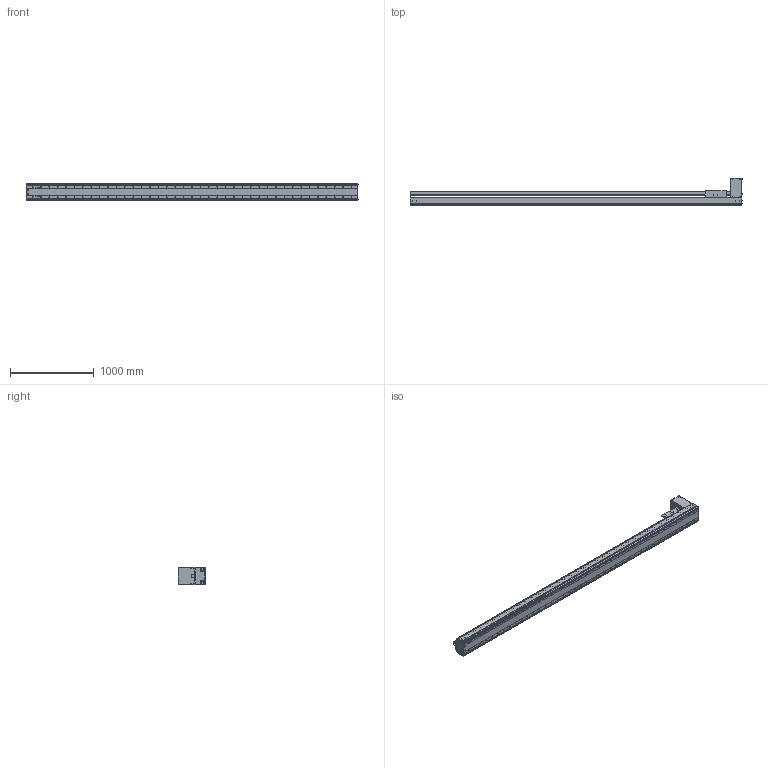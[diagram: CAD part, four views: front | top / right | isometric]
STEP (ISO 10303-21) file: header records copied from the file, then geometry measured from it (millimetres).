
FILE_DESCRIPTION((''),'2;1');
FILE_NAME('BE60J-BT-M19N-W45_IGS_PRT','2017-06-18T',(' '),(''),'PRO/ENGINEER BY PARAMETRIC TECHNOLOGY CORPORATION, 2015030','PRO/ENGINEER BY PARAMETRIC TECHNOLOGY CORPORATION, 2015030','');
FILE_SCHEMA(('CONFIG_CONTROL_DESIGN'));
Products named in the file (1): BE60J-BT-M19N-W45_IGS_PRT
Bounding box: 3954.4 x 327.5 x 214 mm (x, y, z)
Volume: 31122575.3 mm3; surface area: 9143994.7 mm2
Topology: 2 solids, 315 shells, 2853 faces, 8309 edges, 5528 vertices
Faces by surface type: cylinder 1556, plane 981, cone 220, torus 48, sphere 48
Entity records: 98057 total; most frequent: CARTESIAN_POINT 23159, DIRECTION 15478, ORIENTED_EDGE 14938, EDGE_CURVE 8079, AXIS2_PLACEMENT_3D 5928, VERTEX_POINT 5518, VECTOR 3622, LINE 3622
